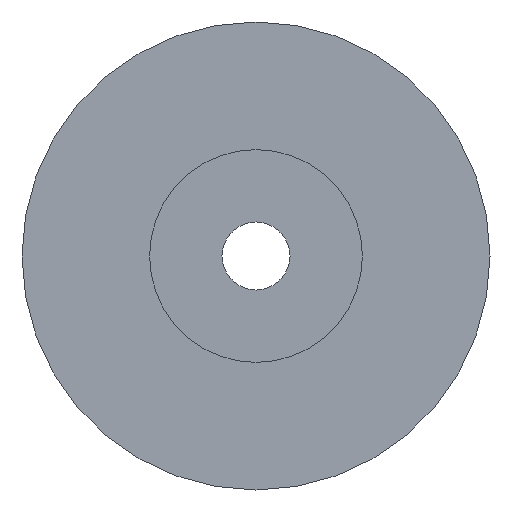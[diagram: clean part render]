
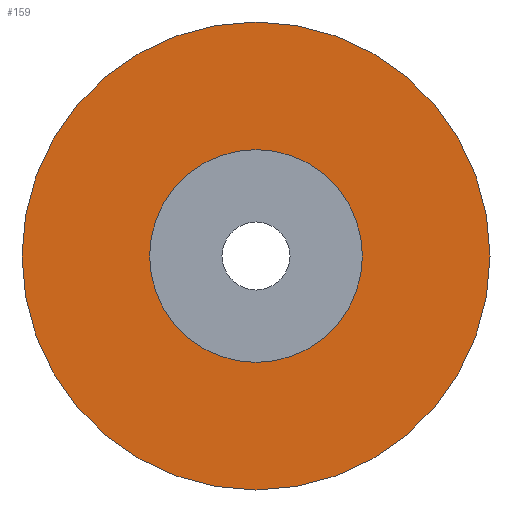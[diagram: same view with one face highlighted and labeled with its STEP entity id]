
A CAD part, front view. The second image highlights one B-rep face of the part: STEP entity #159.
In plain terms, the highlighted planar face has unit normal (0, -1, 0).
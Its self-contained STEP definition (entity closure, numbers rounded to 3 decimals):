
#24 = VERTEX_POINT('',#25);
#25 = CARTESIAN_POINT('',(55.,-18.,0.));
#32 = CYLINDRICAL_SURFACE('',#33,55.);
#33 = AXIS2_PLACEMENT_3D('',#34,#35,#36);
#34 = CARTESIAN_POINT('',(0.,0.,0.));
#35 = DIRECTION('',(-0.,1.,-0.));
#36 = DIRECTION('',(1.,0.,0.));
#51 = EDGE_CURVE('',#24,#24,#52,.T.);
#52 = SURFACE_CURVE('',#53,(#58,#65),.PCURVE_S1.);
#53 = CIRCLE('',#54,55.);
#54 = AXIS2_PLACEMENT_3D('',#55,#56,#57);
#55 = CARTESIAN_POINT('',(0.,-18.,0.));
#56 = DIRECTION('',(0.,-1.,0.));
#57 = DIRECTION('',(1.,0.,0.));
#58 = PCURVE('',#32,#59);
#59 = DEFINITIONAL_REPRESENTATION('',(#60),#64);
#60 = LINE('',#61,#62);
#61 = CARTESIAN_POINT('',(-0.,-18.));
#62 = VECTOR('',#63,1.);
#63 = DIRECTION('',(-1.,0.));
#64 = ( GEOMETRIC_REPRESENTATION_CONTEXT(2) 
PARAMETRIC_REPRESENTATION_CONTEXT() REPRESENTATION_CONTEXT('2D SPACE',''
  ) );
#65 = PCURVE('',#66,#71);
#66 = PLANE('',#67);
#67 = AXIS2_PLACEMENT_3D('',#68,#69,#70);
#68 = CARTESIAN_POINT('',(0.,-18.,0.));
#69 = DIRECTION('',(-0.,-1.,-0.));
#70 = DIRECTION('',(0.,0.,-1.));
#71 = DEFINITIONAL_REPRESENTATION('',(#72),#76);
#72 = CIRCLE('',#73,55.);
#73 = AXIS2_PLACEMENT_2D('',#74,#75);
#74 = CARTESIAN_POINT('',(0.,0.));
#75 = DIRECTION('',(0.,1.));
#76 = ( GEOMETRIC_REPRESENTATION_CONTEXT(2) 
PARAMETRIC_REPRESENTATION_CONTEXT() REPRESENTATION_CONTEXT('2D SPACE',''
  ) );
#159 = ADVANCED_FACE('',(#160,#163),#66,.T.);
#160 = FACE_BOUND('',#161,.T.);
#161 = EDGE_LOOP('',(#162));
#162 = ORIENTED_EDGE('',*,*,#51,.T.);
#163 = FACE_BOUND('',#164,.T.);
#164 = EDGE_LOOP('',(#165));
#165 = ORIENTED_EDGE('',*,*,#166,.F.);
#166 = EDGE_CURVE('',#167,#167,#169,.T.);
#167 = VERTEX_POINT('',#168);
#168 = CARTESIAN_POINT('',(25.,-18.,0.));
#169 = SURFACE_CURVE('',#170,(#175,#182),.PCURVE_S1.);
#170 = CIRCLE('',#171,25.);
#171 = AXIS2_PLACEMENT_3D('',#172,#173,#174);
#172 = CARTESIAN_POINT('',(0.,-18.,0.));
#173 = DIRECTION('',(0.,-1.,0.));
#174 = DIRECTION('',(1.,0.,0.));
#175 = PCURVE('',#66,#176);
#176 = DEFINITIONAL_REPRESENTATION('',(#177),#181);
#177 = CIRCLE('',#178,25.);
#178 = AXIS2_PLACEMENT_2D('',#179,#180);
#179 = CARTESIAN_POINT('',(0.,0.));
#180 = DIRECTION('',(0.,1.));
#181 = ( GEOMETRIC_REPRESENTATION_CONTEXT(2) 
PARAMETRIC_REPRESENTATION_CONTEXT() REPRESENTATION_CONTEXT('2D SPACE',''
  ) );
#182 = PCURVE('',#183,#188);
#183 = CYLINDRICAL_SURFACE('',#184,25.);
#184 = AXIS2_PLACEMENT_3D('',#185,#186,#187);
#185 = CARTESIAN_POINT('',(0.,0.,0.));
#186 = DIRECTION('',(-0.,1.,-0.));
#187 = DIRECTION('',(1.,0.,0.));
#188 = DEFINITIONAL_REPRESENTATION('',(#189),#193);
#189 = LINE('',#190,#191);
#190 = CARTESIAN_POINT('',(-0.,-18.));
#191 = VECTOR('',#192,1.);
#192 = DIRECTION('',(-1.,0.));
#193 = ( GEOMETRIC_REPRESENTATION_CONTEXT(2) 
PARAMETRIC_REPRESENTATION_CONTEXT() REPRESENTATION_CONTEXT('2D SPACE',''
  ) );
